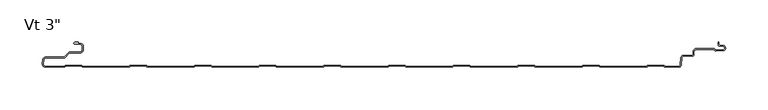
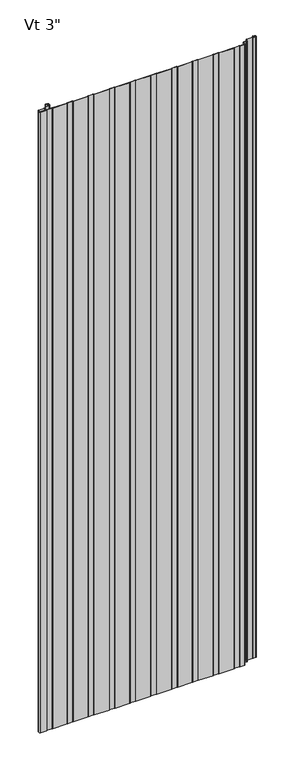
"""IFC4 building model written with IfcOpenShell, lengths in millimetres: plate geometry."""

from ifc_helpers import new_model, si_unit, point, frame_2d, origin, origin_with_axes, place, context, project, spatial, polyline, circle_curve, trimmed, segment, composite_curve, outline, extrude, source, transform, mapped, element, save


def plate_b7fd3eda(model_context):
    return source(origin(), model_context, "Body", "SweptSolid", [
        extrude(outline(composite_curve([segment(polyline([(-391.6415934, -76.1997351), (-413.4521176, -76.1997351)]), True, "CONTINUOUS"), segment(trimmed(circle_curve(frame_2d((-413.4521176, -72.6294958)), 3.5702393), [point((-413.4521176, -76.1997351))], [point((-417.008762, -72.3182254))], False, "CARTESIAN"), True, "CONTINUOUS"), segment(polyline([(-417.008762, -72.3182254), (-416.5690675, -67.2941788)]), True, "CONTINUOUS"), segment(trimmed(circle_curve(frame_2d((-412.9198392, -67.9049799)), 3.6999926), [point((-416.5690675, -67.2941788))], [point((-412.9198392, -64.2049873))], False, "CARTESIAN"), True, "CONTINUOUS"), segment(polyline([(-412.9198392, -64.2049873), (-391.7773997, -64.2049873)]), True, "CONTINUOUS"), segment(trimmed(circle_curve(frame_2d((-391.7773997, -62.9049899)), 1.2999974), [point((-391.7773997, -64.2049873))], [point((-390.8581627, -63.8242269))], True, "CARTESIAN"), True, "CONTINUOUS"), segment(polyline([(-390.8581627, -63.8242269), (-386.0297453, -58.9958094)]), True, "CONTINUOUS"), segment(trimmed(circle_curve(frame_2d((-384.1205608, -60.9049939)), 2.6999946), [point((-386.0297453, -58.9958094))], [point((-384.1205608, -58.2049993))], False, "CARTESIAN"), True, "CONTINUOUS"), segment(polyline([(-384.1205608, -58.2049993), (-372.3096717, -58.2049993)]), True, "CONTINUOUS"), segment(trimmed(circle_curve(frame_2d((-372.3096717, -55.855004)), 2.3499953), [point((-372.3096717, -58.2049993))], [point((-369.9596764, -55.855004))], True, "CARTESIAN"), True, "CONTINUOUS"), segment(polyline([(-369.9596764, -55.855004), (-369.9596764, -51.4550128)]), True, "CONTINUOUS"), segment(trimmed(circle_curve(frame_2d((-372.3096717, -51.4550128)), 2.3499953), [point((-369.9596764, -51.4550128))], [point((-372.3096717, -49.1050175))], True, "CARTESIAN"), True, "CONTINUOUS"), segment(polyline([(-372.3096717, -49.1050175), (-378.8289779, -49.1050175)]), True, "CONTINUOUS"), segment(trimmed(circle_curve(frame_2d((-378.7686908, -47.9065352)), 1.1999976), [point((-378.8289779, -49.1050175))], [point((-379.9683001, -47.8760133))], False, "CARTESIAN"), True, "CONTINUOUS"), segment(trimmed(circle_curve(frame_2d((-378.7686908, -47.9065352)), 1.1999976), [point((-379.9683001, -47.8760133))], [point((-378.7671761, -46.7065386))], False, "CARTESIAN"), True, "CONTINUOUS"), segment(polyline([(-378.7671761, -46.7065386), (-375.0087827, -46.7065386), (-375.0087827, -48.1050175), (-372.3096717, -48.1050175)]), True, "CONTINUOUS"), segment(trimmed(circle_curve(frame_2d((-372.3096717, -51.4550128)), 3.3499953), [point((-372.3096717, -48.1050175))], [point((-368.9596764, -51.4550128))], False, "CARTESIAN"), True, "CONTINUOUS"), segment(polyline([(-368.9596764, -51.4550128), (-368.9596764, -55.855004)]), True, "CONTINUOUS"), segment(trimmed(circle_curve(frame_2d((-372.3096717, -55.855004)), 3.3499953), [point((-368.9596764, -55.855004))], [point((-372.3096717, -59.2049993))], False, "CARTESIAN"), True, "CONTINUOUS"), segment(polyline([(-372.3096717, -59.2049993), (-384.1205608, -59.2049993)]), True, "CONTINUOUS"), segment(trimmed(circle_curve(frame_2d((-384.1205608, -60.9049939)), 1.6999946), [point((-384.1205608, -59.2049993))], [point((-385.3226385, -59.7029162))], True, "CARTESIAN"), True, "CONTINUOUS"), segment(polyline([(-385.3226385, -59.7029162), (-390.8247096, -65.2049873), (-412.9198392, -65.2049873)]), True, "CONTINUOUS"), segment(trimmed(circle_curve(frame_2d((-412.9198392, -67.9049799)), 2.6999926), [point((-412.9198392, -65.2049873))], [point((-415.5765709, -67.4235893))], True, "CARTESIAN"), True, "CONTINUOUS"), segment(polyline([(-415.5765709, -67.4235893), (-416.0125699, -72.4054102)]), True, "CONTINUOUS"), segment(trimmed(circle_curve(frame_2d((-413.4521176, -72.6294958)), 2.5702393), [point((-416.0125699, -72.4054102))], [point((-413.4521176, -75.1997351))], True, "CARTESIAN"), True, "CONTINUOUS"), segment(polyline([(-413.4521176, -75.1997351), (-391.4790962, -75.1997351), (-390.2791277, -73.9997666), (-370.5597151, -73.9997666), (-369.3594844, -75.1999973), (-315.2793527, -75.1999973), (-314.079122, -73.9997666), (-294.3597095, -73.9997666), (-293.1594787, -75.1999973), (-239.079347, -75.1999973), (-237.8791163, -73.9997666), (-218.1597038, -73.9997666), (-216.9594731, -75.1999973), (-162.8793413, -75.1999973), (-161.6791106, -73.9997666), (-141.9596981, -73.9997666), (-140.7594674, -75.1999973), (-86.6793356, -75.1999973), (-85.4791049, -73.9997666), (-65.7596924, -73.9997666), (-64.5594617, -75.1999973), (-10.4793299, -75.1999973), (-9.2790992, -73.9997666), (10.4403133, -73.9997666), (11.640544, -75.1999973), (65.7206758, -75.1999973), (66.9209065, -73.9997666), (86.640319, -73.9997666), (87.8405497, -75.1999973), (141.9206815, -75.1999973), (143.1209122, -73.9997666), (162.8403247, -73.9997666), (164.0405554, -75.1999973), (218.1206872, -75.1999973), (219.3209179, -73.9997666), (239.0403304, -73.9997666), (240.2405611, -75.1999973), (294.3206929, -75.1999973), (295.5209236, -73.9997666), (315.2403361, -73.9997666), (316.4396652, -75.1990957), (332.5384359, -75.1990957)]), True, "CONTINUOUS"), segment(trimmed(circle_curve(frame_2d((332.5384359, -73.2491016)), 1.9499941), [point((332.5384359, -75.1990957))], [point((334.4810097, -73.4190548))], True, "CARTESIAN"), True, "CONTINUOUS"), segment(polyline([(334.4810097, -73.4190548), (335.2215397, -64.9547583)]), True, "CONTINUOUS"), segment(trimmed(circle_curve(frame_2d((338.2400056, -65.2188399)), 3.0299959), [point((335.2215397, -64.9547583))], [point((338.3657441, -62.191454))], False, "CARTESIAN"), True, "CONTINUOUS"), segment(polyline([(338.3657441, -62.191454), (348.4595941, -62.191454)]), True, "CONTINUOUS"), segment(trimmed(circle_curve(frame_2d((348.4595941, -61.2423006)), 0.9491534), [point((348.4595941, -62.191454))], [point((349.4087475, -61.2423006))], True, "CARTESIAN"), True, "CONTINUOUS"), segment(polyline([(349.4087475, -61.2423006), (349.4087475, -58.1009009)]), True, "CONTINUOUS"), segment(trimmed(circle_curve(frame_2d((353.4087415, -58.1009009)), 3.999994), [point((349.4087475, -58.1009009))], [point((353.4087415, -54.1009069))], False, "CARTESIAN"), True, "CONTINUOUS"), segment(polyline([(353.4087415, -54.1009069), (374.5895515, -54.1009069), (375.7334028, -56.0821154), (384.706811, -55.726855)]), True, "CONTINUOUS"), segment(trimmed(circle_curve(frame_2d((384.6236622, -53.6266264)), 2.1018739), [point((384.706811, -55.726855))], [point((384.7037148, -51.5262775))], True, "CARTESIAN"), True, "CONTINUOUS"), segment(polyline([(384.7037148, -51.5262775), (380.6977997, -51.2818625)]), True, "CONTINUOUS"), segment(trimmed(circle_curve(frame_2d((380.8099653, -49.443489)), 1.8417922), [point((380.6977997, -51.2818625))], [point((378.9686884, -49.48705))], False, "CARTESIAN"), True, "CONTINUOUS"), segment(polyline([(378.9686884, -49.48705), (378.9686884, -46.7025034), (379.9686884, -46.7025034), (379.9686884, -49.4729362)]), True, "CONTINUOUS"), segment(trimmed(circle_curve(frame_2d((380.8099653, -49.443489)), 0.8417922), [point((379.9686884, -49.4729362))], [point((380.7587, -50.2837187))], True, "CARTESIAN"), True, "CONTINUOUS"), segment(polyline([(380.7587, -50.2837187), (384.7543204, -50.5275055)]), True, "CONTINUOUS"), segment(trimmed(circle_curve(frame_2d((384.6236622, -53.6266264)), 3.1018739), [point((384.7543204, -50.5275055))], [point((384.7463704, -56.7260723))], False, "CARTESIAN"), True, "CONTINUOUS"), segment(polyline([(384.7463704, -56.7260723), (376.0344401, -57.0709806)]), True, "CONTINUOUS"), segment(trimmed(circle_curve(frame_2d((375.987224, -55.6217524)), 1.4499971), [point((376.0344401, -57.0709806))], [point((374.7314897, -56.346751))], False, "CARTESIAN"), True, "CONTINUOUS"), segment(polyline([(374.7314897, -56.346751), (374.0122013, -55.1009069), (353.4087415, -55.1009069)]), True, "CONTINUOUS"), segment(trimmed(circle_curve(frame_2d((353.4087415, -58.1009009)), 2.999994), [point((353.4087415, -55.1009069))], [point((350.4087475, -58.1009009))], True, "CARTESIAN"), True, "CONTINUOUS"), segment(polyline([(350.4087475, -58.1009009), (350.4087475, -61.2423006)]), True, "CONTINUOUS"), segment(trimmed(circle_curve(frame_2d((348.4595941, -61.2423006)), 1.9491534), [point((350.4087475, -61.2423006))], [point((348.4595941, -63.191454))], False, "CARTESIAN"), True, "CONTINUOUS"), segment(polyline([(348.4595941, -63.191454), (338.3429135, -63.191454)]), True, "CONTINUOUS"), segment(trimmed(circle_curve(frame_2d((338.2400056, -65.2188399)), 2.0299959), [point((338.3429135, -63.191454))], [point((336.2177344, -65.0419141))], True, "CARTESIAN"), True, "CONTINUOUS"), segment(polyline([(336.2177344, -65.0419141), (335.4772044, -73.5062105)]), True, "CONTINUOUS"), segment(trimmed(circle_curve(frame_2d((332.5384359, -73.2491016)), 2.9499941), [point((335.4772044, -73.5062105))], [point((332.5384359, -76.1990957))], False, "CARTESIAN"), True, "CONTINUOUS"), segment(polyline([(332.5384359, -76.1990957), (316.6525313, -76.1990957)]), True, "CONTINUOUS"), segment(trimmed(circle_curve(frame_2d((316.6017161, -74.800021)), 1.3999972), [point((316.6525313, -76.1990957))], [point((315.5576653, -75.7327322))], False, "CARTESIAN"), True, "CONTINUOUS"), segment(polyline([(315.5576653, -75.7327322), (314.8246997, -74.9997666), (295.9340305, -74.9997666), (295.2010858, -75.7327112)]), True, "CONTINUOUS"), segment(trimmed(circle_curve(frame_2d((294.157035, -74.8000001)), 1.3999972), [point((295.2010858, -75.7327112))], [point((294.157035, -76.1999973))], False, "CARTESIAN"), True, "CONTINUOUS"), segment(polyline([(294.157035, -76.1999973), (240.4095218, -76.1999973)]), True, "CONTINUOUS"), segment(trimmed(circle_curve(frame_2d((240.4018685, -74.800021)), 1.3999972), [point((240.4095218, -76.1999973))], [point((239.3578177, -75.7327322))], False, "CARTESIAN"), True, "CONTINUOUS"), segment(polyline([(239.3578177, -75.7327322), (238.6248521, -74.9997666), (219.7341829, -74.9997666), (219.0012382, -75.7327112)]), True, "CONTINUOUS"), segment(trimmed(circle_curve(frame_2d((217.9571874, -74.8000001)), 1.3999972), [point((219.0012382, -75.7327112))], [point((217.9571874, -76.1999973))], False, "CARTESIAN"), True, "CONTINUOUS"), segment(polyline([(217.9571874, -76.1999973), (164.2096742, -76.1999973)]), True, "CONTINUOUS"), segment(trimmed(circle_curve(frame_2d((164.2020209, -74.800021)), 1.3999972), [point((164.2096742, -76.1999973))], [point((163.1579701, -75.7327322))], False, "CARTESIAN"), True, "CONTINUOUS"), segment(polyline([(163.1579701, -75.7327322), (162.4250045, -74.9997666), (143.5343353, -74.9997666), (142.8013906, -75.7327112)]), True, "CONTINUOUS"), segment(trimmed(circle_curve(frame_2d((141.7573398, -74.8000001)), 1.3999972), [point((142.8013906, -75.7327112))], [point((141.7573398, -76.1999973))], False, "CARTESIAN"), True, "CONTINUOUS"), segment(polyline([(141.7573398, -76.1999973), (88.0098266, -76.1999973)]), True, "CONTINUOUS"), segment(trimmed(circle_curve(frame_2d((88.0021733, -74.800021)), 1.3999972), [point((88.0098266, -76.1999973))], [point((86.9581225, -75.7327322))], False, "CARTESIAN"), True, "CONTINUOUS"), segment(polyline([(86.9581225, -75.7327322), (86.2251569, -74.9997666), (67.3344877, -74.9997666), (66.601543, -75.7327112)]), True, "CONTINUOUS"), segment(trimmed(circle_curve(frame_2d((65.5574922, -74.8000001)), 1.3999972), [point((66.601543, -75.7327112))], [point((65.5574922, -76.1999973))], False, "CARTESIAN"), True, "CONTINUOUS"), segment(polyline([(65.5574922, -76.1999973), (11.809979, -76.1999973)]), True, "CONTINUOUS"), segment(trimmed(circle_curve(frame_2d((11.8023257, -74.800021)), 1.3999972), [point((11.809979, -76.1999973))], [point((10.7582749, -75.7327322))], False, "CARTESIAN"), True, "CONTINUOUS"), segment(polyline([(10.7582749, -75.7327322), (10.0253093, -74.9997666), (-8.8653599, -74.9997666), (-9.5983046, -75.7327112)]), True, "CONTINUOUS"), segment(trimmed(circle_curve(frame_2d((-10.6423554, -74.8000001)), 1.3999972), [point((-9.5983046, -75.7327112))], [point((-10.6423554, -76.1999973))], False, "CARTESIAN"), True, "CONTINUOUS"), segment(polyline([(-10.6423554, -76.1999973), (-64.3898686, -76.1999973)]), True, "CONTINUOUS"), segment(trimmed(circle_curve(frame_2d((-64.3975219, -74.800021)), 1.3999972), [point((-64.3898686, -76.1999973))], [point((-65.4415727, -75.7327322))], False, "CARTESIAN"), True, "CONTINUOUS"), segment(polyline([(-65.4415727, -75.7327322), (-66.1745383, -74.9997666), (-85.0652075, -74.9997666), (-85.7981522, -75.7327112)]), True, "CONTINUOUS"), segment(trimmed(circle_curve(frame_2d((-86.842203, -74.8000001)), 1.3999972), [point((-85.7981522, -75.7327112))], [point((-86.842203, -76.1999973))], False, "CARTESIAN"), True, "CONTINUOUS"), segment(polyline([(-86.842203, -76.1999973), (-140.5897162, -76.1999973)]), True, "CONTINUOUS"), segment(trimmed(circle_curve(frame_2d((-140.5973695, -74.800021)), 1.3999972), [point((-140.5897162, -76.1999973))], [point((-141.6414203, -75.7327322))], False, "CARTESIAN"), True, "CONTINUOUS"), segment(polyline([(-141.6414203, -75.7327322), (-142.3743859, -74.9997666), (-161.2650551, -74.9997666), (-161.9979998, -75.7327112)]), True, "CONTINUOUS"), segment(trimmed(circle_curve(frame_2d((-163.0420506, -74.8000001)), 1.3999972), [point((-161.9979998, -75.7327112))], [point((-163.0420506, -76.1999973))], False, "CARTESIAN"), True, "CONTINUOUS"), segment(polyline([(-163.0420506, -76.1999973), (-216.7895638, -76.1999973)]), True, "CONTINUOUS"), segment(trimmed(circle_curve(frame_2d((-216.7972171, -74.800021)), 1.3999972), [point((-216.7895638, -76.1999973))], [point((-217.8412679, -75.7327322))], False, "CARTESIAN"), True, "CONTINUOUS"), segment(polyline([(-217.8412679, -75.7327322), (-218.5742335, -74.9997666), (-237.4649027, -74.9997666), (-238.1978474, -75.7327112)]), True, "CONTINUOUS"), segment(trimmed(circle_curve(frame_2d((-239.2418982, -74.8000001)), 1.3999972), [point((-238.1978474, -75.7327112))], [point((-239.2418982, -76.1999973))], False, "CARTESIAN"), True, "CONTINUOUS"), segment(polyline([(-239.2418982, -76.1999973), (-292.9894114, -76.1999973)]), True, "CONTINUOUS"), segment(trimmed(circle_curve(frame_2d((-292.9970647, -74.800021)), 1.3999972), [point((-292.9894114, -76.1999973))], [point((-294.0411155, -75.7327322))], False, "CARTESIAN"), True, "CONTINUOUS"), segment(polyline([(-294.0411155, -75.7327322), (-294.7740811, -74.9997666), (-313.6647503, -74.9997666), (-314.397695, -75.7327112)]), True, "CONTINUOUS"), segment(trimmed(circle_curve(frame_2d((-315.4417458, -74.8000001)), 1.3999972), [point((-314.397695, -75.7327112))], [point((-315.4417458, -76.1999973))], False, "CARTESIAN"), True, "CONTINUOUS"), segment(polyline([(-315.4417458, -76.1999973), (-369.189259, -76.1999973)]), True, "CONTINUOUS"), segment(trimmed(circle_curve(frame_2d((-369.1969123, -74.800021)), 1.3999972), [point((-369.189259, -76.1999973))], [point((-370.2409631, -75.7327322))], False, "CARTESIAN"), True, "CONTINUOUS"), segment(polyline([(-370.2409631, -75.7327322), (-370.9739287, -74.9997666), (-389.8649141, -74.9997666), (-390.5976403, -75.7324928)]), True, "CONTINUOUS"), segment(trimmed(circle_curve(frame_2d((-391.6415934, -74.799869)), 1.3998661), [point((-390.5976403, -75.7324928))], [point((-391.6415934, -76.1997351))], False, "CARTESIAN"), True, "CONTINUOUS")], self_intersect=False)), origin_with_axes(), (0.0, 0.0, 1.0), 2400.0),
    ])


if __name__ == "__main__":
    model = new_model("IFC4")
    model_context = context("Model", 3, world=origin())
    ifc_project = project(units=[si_unit("LENGTHUNIT", "METRE", prefix="MILLI")], contexts=[model_context])
    site = spatial("IfcSite", under=ifc_project)
    building = spatial("IfcBuilding", under=site)
    placement = place(None, origin())
    plate_shape = plate_b7fd3eda(model_context)
    element("IfcPlate", 1, ObjectType="KIP-30-Karrier-KP-R19-CP-Vt-SL_SL : Vt 3\"", at=placement, inside=building, context=model_context, shape_type="MappedRepresentation", body=[
        mapped(plate_shape, transform((0.0, 0.0, 0.0), x_axis=(1.0, 0.0, 0.0), y_axis=(0.0, 1.0, 0.0), z_axis=(0.0, 0.0, 1.0))),
    ])
    save(model, "model.ifc")
